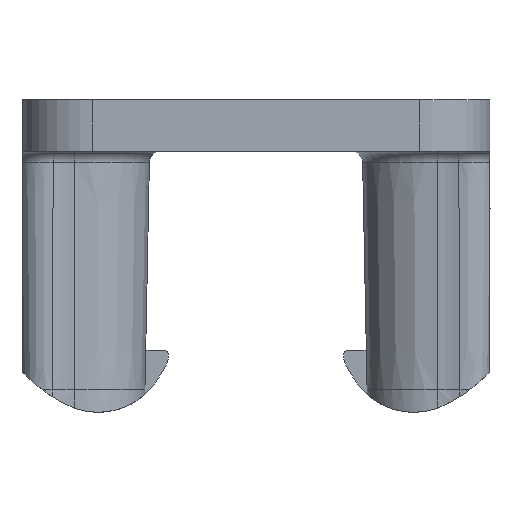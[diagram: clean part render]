
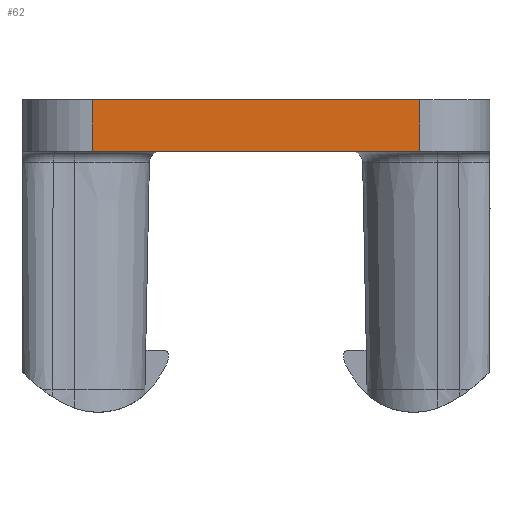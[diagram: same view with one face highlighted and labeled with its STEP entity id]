
A CAD part, left-side view. The second image highlights one B-rep face of the part: STEP entity #62.
In plain terms, the highlighted planar face has unit normal (-1, 0, 0).
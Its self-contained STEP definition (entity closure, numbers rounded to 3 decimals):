
#26 = CARTESIAN_POINT ( 'NONE',  ( -14.635, 8.28, 13.7 ) ) ;
#62 = ADVANCED_FACE ( 'NONE', ( #249 ), #1393, .T. ) ;
#75 = LINE ( 'NONE', #3040, #355 ) ;
#249 = FACE_OUTER_BOUND ( 'NONE', #2179, .T. ) ;
#355 = VECTOR ( 'NONE', #1017, 1000. ) ;
#590 = VERTEX_POINT ( 'NONE', #1149 ) ;
#646 = EDGE_CURVE ( 'NONE', #3737, #590, #3386, .T. ) ;
#673 = EDGE_CURVE ( 'NONE', #3658, #590, #4373, .T. ) ;
#903 = CARTESIAN_POINT ( 'NONE',  ( -14.635, 8.28, 11.5 ) ) ;
#1005 = AXIS2_PLACEMENT_3D ( 'NONE', #3811, #1426, #3477 ) ;
#1017 = DIRECTION ( 'NONE',  ( 0., 0., 1. ) ) ;
#1149 = CARTESIAN_POINT ( 'NONE',  ( -14.635, 8.28, 11.5 ) ) ;
#1357 = ORIENTED_EDGE ( 'NONE', *, *, #2967, .T. ) ;
#1393 = PLANE ( 'NONE',  #1005 ) ;
#1426 = DIRECTION ( 'NONE',  ( -1., 0., 0. ) ) ;
#1486 = DIRECTION ( 'NONE',  ( 0., 1., 0. ) ) ;
#1508 = LINE ( 'NONE', #3379, #4005 ) ;
#1980 = VECTOR ( 'NONE', #1486, 1000. ) ;
#2179 = EDGE_LOOP ( 'NONE', ( #3702, #1357, #2907, #3573 ) ) ;
#2524 = VECTOR ( 'NONE', #4132, 1000. ) ;
#2889 = EDGE_CURVE ( 'NONE', #3354, #3658, #1508, .T. ) ;
#2907 = ORIENTED_EDGE ( 'NONE', *, *, #2889, .T. ) ;
#2967 = EDGE_CURVE ( 'NONE', #3737, #3354, #75, .T. ) ;
#3040 = CARTESIAN_POINT ( 'NONE',  ( -14.635, -5.711, 13.7 ) ) ;
#3354 = VERTEX_POINT ( 'NONE', #4345 ) ;
#3379 = CARTESIAN_POINT ( 'NONE',  ( -14.635, 0., 13.7 ) ) ;
#3386 = LINE ( 'NONE', #3597, #1980 ) ;
#3413 = DIRECTION ( 'NONE',  ( 0., 1., 0. ) ) ;
#3477 = DIRECTION ( 'NONE',  ( 0., -1., 0. ) ) ;
#3573 = ORIENTED_EDGE ( 'NONE', *, *, #673, .T. ) ;
#3597 = CARTESIAN_POINT ( 'NONE',  ( -14.635, 0., 11.5 ) ) ;
#3658 = VERTEX_POINT ( 'NONE', #26 ) ;
#3702 = ORIENTED_EDGE ( 'NONE', *, *, #646, .F. ) ;
#3737 = VERTEX_POINT ( 'NONE', #4194 ) ;
#3811 = CARTESIAN_POINT ( 'NONE',  ( -14.635, 0., 27.028 ) ) ;
#4005 = VECTOR ( 'NONE', #3413, 1000. ) ;
#4132 = DIRECTION ( 'NONE',  ( 0., 0., -1. ) ) ;
#4194 = CARTESIAN_POINT ( 'NONE',  ( -14.635, -5.711, 11.5 ) ) ;
#4345 = CARTESIAN_POINT ( 'NONE',  ( -14.635, -5.711, 13.7 ) ) ;
#4373 = LINE ( 'NONE', #903, #2524 ) ;
